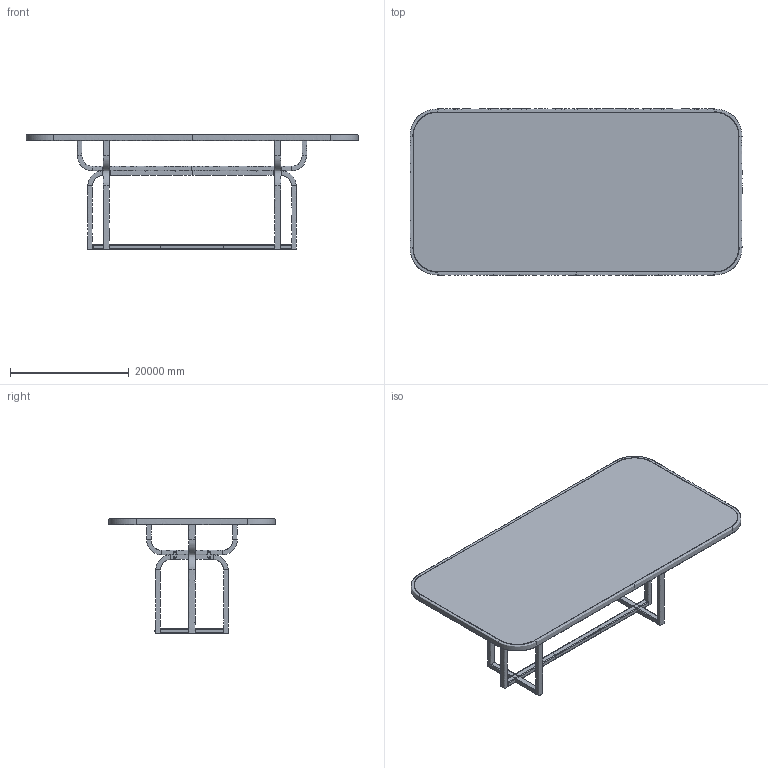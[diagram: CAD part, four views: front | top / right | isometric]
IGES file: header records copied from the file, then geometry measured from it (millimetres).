
Global section: file name: \\192.168.4.99\ufficio_tecnico\51-3d_2d prodotti 2018\caryllon dining table 3d_2d\caryllon dining table 3d.igs; native system: Rhinoceros ( May 22 2017 ); preprocessor: Trout Lake IGES 012 May 22 2017; date: 180516.082823; units: inch
Bounding box: 55880 x 27940 x 19310.04 mm (x, y, z)
Surface area: 4527879017.5 mm2 (no closed solid volume)
Topology: 0 solids, 0 shells, 445 faces, 2859 edges, 2753 vertices
Faces by surface type: bspline 445
